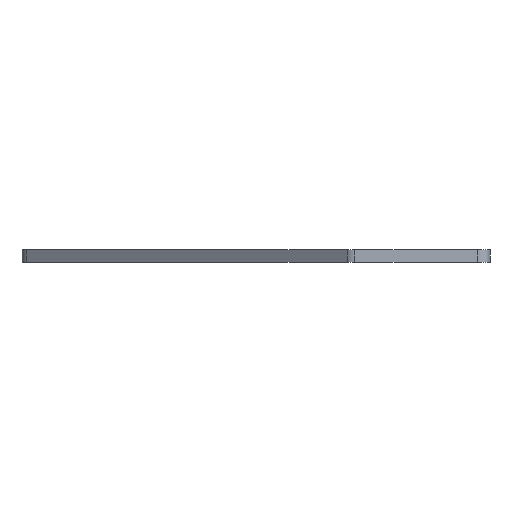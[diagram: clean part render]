
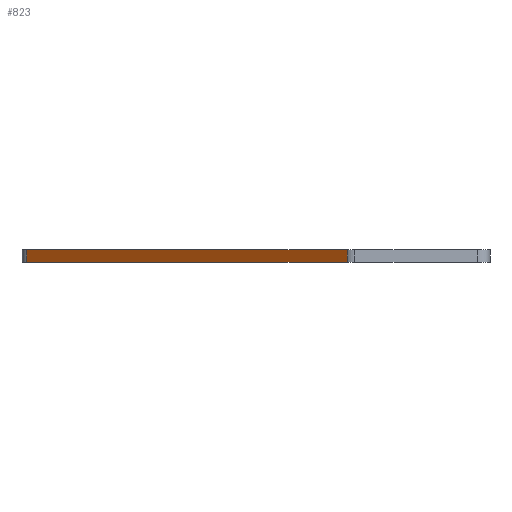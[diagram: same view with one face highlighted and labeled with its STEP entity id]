
A CAD part, left-side view. The second image highlights one B-rep face of the part: STEP entity #823.
In plain terms, the highlighted planar face has unit normal (-0.786, 0.619, 0).
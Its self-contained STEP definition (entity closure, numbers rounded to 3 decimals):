
#3 = VECTOR ( 'NONE', #95, 1000. ) ;
#49 = ORIENTED_EDGE ( 'NONE', *, *, #1017, .T. ) ;
#95 = DIRECTION ( 'NONE',  ( 0., 0., 1. ) ) ;
#106 = AXIS2_PLACEMENT_3D ( 'NONE', #173, #931, #337 ) ;
#122 = DIRECTION ( 'NONE',  ( -0.619, -0.786, 0. ) ) ;
#130 = CARTESIAN_POINT ( 'NONE',  ( -44.614, 12.665, 0. ) ) ;
#168 = EDGE_CURVE ( 'NONE', #652, #202, #574, .T. ) ;
#173 = CARTESIAN_POINT ( 'NONE',  ( -44.614, 12.665, 3. ) ) ;
#187 = CARTESIAN_POINT ( 'NONE',  ( 17.485, 91.521, 0. ) ) ;
#202 = VERTEX_POINT ( 'NONE', #993 ) ;
#218 = EDGE_CURVE ( 'NONE', #652, #728, #554, .T. ) ;
#221 = CARTESIAN_POINT ( 'NONE',  ( -43.971, 13.482, 0. ) ) ;
#285 = CARTESIAN_POINT ( 'NONE',  ( 17.485, 91.521, 3. ) ) ;
#288 = FACE_OUTER_BOUND ( 'NONE', #985, .T. ) ;
#335 = VECTOR ( 'NONE', #1078, 1000. ) ;
#337 = DIRECTION ( 'NONE',  ( 0.619, 0.786, 0. ) ) ;
#352 = EDGE_CURVE ( 'NONE', #728, #486, #488, .T. ) ;
#486 = VERTEX_POINT ( 'NONE', #221 ) ;
#488 = LINE ( 'NONE', #130, #673 ) ;
#554 = LINE ( 'NONE', #561, #335 ) ;
#561 = CARTESIAN_POINT ( 'NONE',  ( 17.485, 91.521, 3. ) ) ;
#574 = LINE ( 'NONE', #930, #777 ) ;
#647 = PLANE ( 'NONE',  #106 ) ;
#652 = VERTEX_POINT ( 'NONE', #285 ) ;
#659 = LINE ( 'NONE', #674, #3 ) ;
#673 = VECTOR ( 'NONE', #122, 1000. ) ;
#674 = CARTESIAN_POINT ( 'NONE',  ( -43.971, 13.482, 3. ) ) ;
#728 = VERTEX_POINT ( 'NONE', #187 ) ;
#777 = VECTOR ( 'NONE', #862, 1000. ) ;
#823 = ADVANCED_FACE ( 'NONE', ( #288 ), #647, .F. ) ;
#839 = ORIENTED_EDGE ( 'NONE', *, *, #218, .T. ) ;
#862 = DIRECTION ( 'NONE',  ( -0.619, -0.786, 0. ) ) ;
#930 = CARTESIAN_POINT ( 'NONE',  ( -44.614, 12.665, 3. ) ) ;
#931 = DIRECTION ( 'NONE',  ( 0.786, -0.619, 0. ) ) ;
#946 = ORIENTED_EDGE ( 'NONE', *, *, #352, .T. ) ;
#985 = EDGE_LOOP ( 'NONE', ( #946, #49, #1074, #839 ) ) ;
#993 = CARTESIAN_POINT ( 'NONE',  ( -43.971, 13.482, 3. ) ) ;
#1017 = EDGE_CURVE ( 'NONE', #486, #202, #659, .T. ) ;
#1074 = ORIENTED_EDGE ( 'NONE', *, *, #168, .F. ) ;
#1078 = DIRECTION ( 'NONE',  ( 0., 0., -1. ) ) ;
